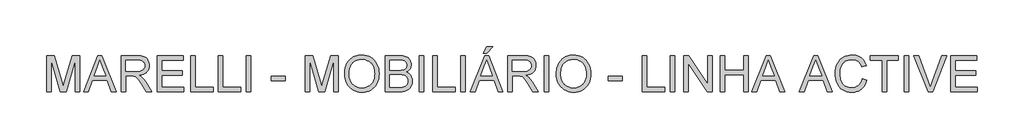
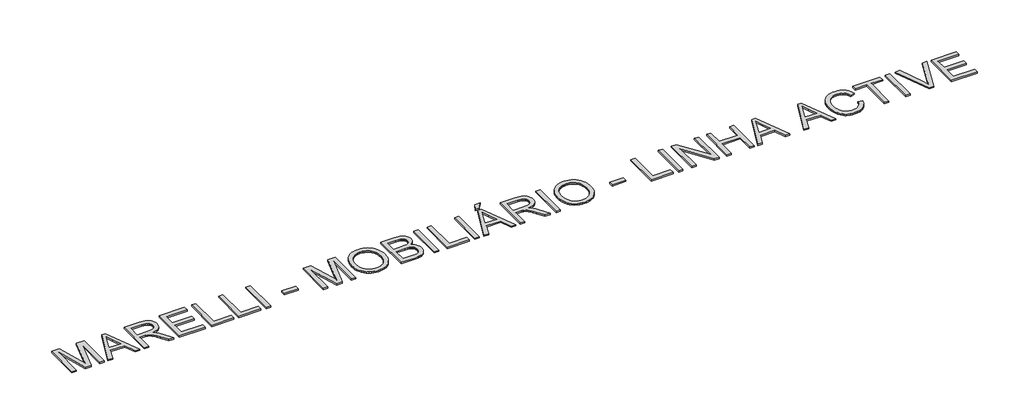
# One storey, part 19 of 19: 1 proxy.
"""IFC4 building model written with IfcOpenShell, lengths in millimetres."""

from ifc_helpers import new_model, si_unit, origin, origin_with_axes, place, context, project, spatial, polyline, outline, extrude, element, save

model = new_model("IFC4")

# Units and contexts
model_context = context("Model", 3, world=origin())
ifc_project = project(units=[si_unit("LENGTHUNIT", "METRE", prefix="MILLI")], contexts=[model_context])

# Site, building, storey
site = spatial("IfcSite", under=ifc_project)
building = spatial("IfcBuilding", under=site)
storey = spatial("IfcBuildingStorey", under=building, Name="Marelli - Linha ACTIVE - Planta Baixa", Elevation=0.0)

# Proxy
placement = place(None, origin())
element("IfcBuildingElementProxy", 1, Name="1200mm Arial", ObjectType="1200mm Arial", at=placement, inside=storey, context=model_context, shape_type="SweptSolid", body=[
    extrude(outline(polyline([(7890.8310756, 28269.4336799), (7890.8310756, 29474.9094017), (8150.1143058, 29474.9094017), (8396.7423953, 28625.2491457), (8446.4800411, 28447.7828712), (8500.3379652, 28639.9644255), (8742.8457764, 29474.9094017), (9002.1290066, 29474.9094017), (9002.1290066, 28269.4336799), (8851.4445414, 28269.4336799), (8851.4445414, 29324.2249365), (8548.6040829, 28269.4336799), (8344.3559992, 28269.4336799), (8041.5155408, 29324.2249365), (8041.5155408, 28269.4336799), (7890.8310756, 28269.4336799)])), origin_with_axes(), (0.0, 0.0, 1.0), 50.0),
    extrude(outline(polyline([(9125.4430514, 28269.4336799), (9606.6327011, 29474.9094017), (9734.949941, 29474.9094017), (10216.1395907, 28269.4336799), (10056.9202632, 28269.4336799), (9918.8909386, 28646.144843), (9422.3973979, 28646.144843), (9284.6623789, 28269.4336799), (9125.4430514, 28269.4336799)]), holes=[polyline([(9477.72685, 28796.8293082), (9863.8557921, 28796.8293082), (9755.2570271, 29093.1950435), (9670.791321, 29324.2249365), (9595.743394, 29119.093936), (9477.72685, 28796.8293082)])]), origin_with_axes(), (0.0, 0.0, 1.0), 50.0),
    extrude(outline(polyline([(10377.1247518, 28269.4336799), (10377.1247518, 29474.9094017), (10896.574129, 29474.9094017), (10971.1346123, 29472.8768537), (11036.1853461, 29466.7792096), (11091.7263303, 29456.6164695), (11137.757565, 29442.3886334), (11176.9553916, 29423.0012522), (11211.9961516, 29397.3598771), (11242.8798451, 29365.4645082), (11269.6064721, 29327.3151453), (11291.173554, 29284.9627306), (11306.5786126, 29240.4582062), (11315.8216477, 29193.8015722), (11318.9026594, 29144.9928285), (11313.7982967, 29083.0782887), (11298.4852087, 29026.2405204), (11272.9633953, 28974.4795237), (11237.2328565, 28927.7952985), (11215.424352, 28906.7294558), (11190.8337398, 28887.6777669), (11133.3061928, 28855.616851), (11064.6502155, 28831.6125509), (10984.8658078, 28815.6648664), (11034.5298771, 28783.2176744), (11070.5087363, 28751.2119408), (11132.2393351, 28678.0034238), (11192.6455587, 28596.1128916), (11393.6562808, 28269.4336799), (11218.5444511, 28269.4336799), (11061.6795684, 28519.2991311), (10998.9189, 28614.6541442), (10948.3719139, 28684.6988761), (10906.2494254, 28732.9282057), (10868.7622501, 28762.8370119), (10833.2616376, 28780.384983), (10797.0988375, 28791.5318075), (10761.8557423, 28795.504933), (10709.6900754, 28796.8293082), (10527.809217, 28796.8293082), (10527.809217, 28269.4336799), (10377.1247518, 28269.4336799)]), holes=[polyline([(10527.809217, 28947.5137734), (10865.0834302, 28947.5137734), (10961.9467595, 28952.8480624), (11002.239035, 28959.5159235), (11037.1050511, 28968.8509292), (11067.326557, 28981.1197937), (11093.685302, 28996.5892316), (11116.181286, 29015.2592429), (11134.814509, 29037.1298275), (11149.4286213, 29061.1249306), (11159.8672729, 29086.1684974), (11166.1304639, 29112.2605279), (11168.2181942, 29139.4010221), (11164.2358716, 29177.9366611), (11152.2889038, 29212.9038448), (11132.3772908, 29244.3025731), (11104.5010326, 29272.132846), (11068.0163358, 29294.9231356), (11022.2794067, 29311.2019139), (10967.2902455, 29320.9691808), (10903.0488521, 29324.2249365), (10527.809217, 29324.2249365), (10527.809217, 28947.5137734)])]), origin_with_axes(), (0.0, 0.0, 1.0), 50.0),
    extrude(outline(polyline([(11582.6004736, 28269.4336799), (11582.6004736, 29474.9094017), (12449.0361486, 29474.9094017), (12449.0361486, 29324.2249365), (11733.2849388, 29324.2249365), (11733.2849388, 28966.3493316), (12411.3650323, 28966.3493316), (12411.3650323, 28815.6648664), (11733.2849388, 28815.6648664), (11733.2849388, 28420.1181452), (12467.8717067, 28420.1181452), (12467.8717067, 28269.4336799), (11582.6004736, 28269.4336799)])), origin_with_axes(), (0.0, 0.0, 1.0), 50.0),
    extrude(outline(polyline([(12693.8984046, 28269.4336799), (12693.8984046, 29474.9094017), (12844.5828698, 29474.9094017), (12844.5828698, 28420.1181452), (13447.3207307, 28420.1181452), (13447.3207307, 28269.4336799), (12693.8984046, 28269.4336799)])), origin_with_axes(), (0.0, 0.0, 1.0), 50.0),
    extrude(outline(polyline([(13616.8407541, 28269.4336799), (13616.8407541, 29474.9094017), (13767.5252193, 29474.9094017), (13767.5252193, 28420.1181452), (14370.2630802, 28420.1181452), (14370.2630802, 28269.4336799), (13616.8407541, 28269.4336799)])), origin_with_axes(), (0.0, 0.0, 1.0), 50.0),
    extrude(outline(polyline([(14558.6186617, 28269.4336799), (14558.6186617, 29474.9094017), (14709.303127, 29474.9094017), (14709.303127, 28269.4336799), (14558.6186617, 28269.4336799)])), origin_with_axes(), (0.0, 0.0, 1.0), 50.0),
    extrude(outline(polyline([(15387.3832205, 28627.3092848), (15387.3832205, 28777.9937501), (15858.2721743, 28777.9937501), (15858.2721743, 28627.3092848), (15387.3832205, 28627.3092848)])), origin_with_axes(), (0.0, 0.0, 1.0), 50.0),
    extrude(outline(polyline([(16517.5167097, 28269.4336799), (16517.5167097, 29474.9094017), (16776.7999399, 29474.9094017), (17023.4280294, 28625.2491457), (17073.1656752, 28447.7828712), (17127.0235993, 28639.9644255), (17369.5314105, 29474.9094017), (17628.8146407, 29474.9094017), (17628.8146407, 28269.4336799), (17478.1301755, 28269.4336799), (17478.1301755, 29324.2249365), (17175.289717, 28269.4336799), (16971.0416333, 28269.4336799), (16668.2011749, 29324.2249365), (16668.2011749, 28269.4336799), (16517.5167097, 28269.4336799)])), origin_with_axes(), (0.0, 0.0, 1.0), 50.0),
    extrude(outline(polyline([(17836.0057804, 28856.2790386), (17838.516575, 28929.0047106), (17846.0489588, 28997.6744835), (17858.6029319, 29062.2883574), (17876.1784942, 29122.8463323), (17898.7756458, 29179.3484083), (17926.3943866, 29231.7945852), (17959.0347166, 29280.1848632), (17996.6966359, 29324.5192421), (18038.3270821, 29364.1815197), (18082.8729932, 29398.5554936), (18130.3343691, 29427.6411639), (18180.7112099, 29451.4385304), (18234.0035154, 29469.9475933), (18290.2112857, 29483.1683525), (18349.3345209, 29491.100808), (18411.3732208, 29493.7449599), (18492.4728067, 29488.7785529), (18569.4889024, 29473.8793321), (18642.4215079, 29449.0472975), (18711.2706233, 29414.2824489), (18774.1048681, 29370.6332502), (18828.9928618, 29319.148165), (18875.9346043, 29259.8271932), (18914.9300958, 29192.670335), (18945.574666, 29119.2043006), (18967.4636447, 29040.9558002), (18980.597032, 28957.9248339), (18984.9748277, 28870.1114017), (18980.3671057, 28781.1391411), (18966.5439397, 28696.9861347), (18943.5053298, 28617.6523825), (18911.2512759, 28543.1378843), (18870.5451331, 28475.410809), (18822.1502566, 28416.4393252), (18766.0666465, 28366.2234329), (18702.2943026, 28324.763132), (18633.3440197, 28292.31594), (18561.7265923, 28269.1393743), (18487.4420204, 28255.2334349), (18410.490304, 28250.5981218), (18327.9743725, 28255.7208786), (18249.9466013, 28271.0891489), (18176.4069905, 28296.7029328), (18107.35554, 28332.5622303), (18044.5948716, 28377.2782868), (17989.9276072, 28429.4623478), (17943.3537466, 28489.1144134), (17904.8732899, 28556.2344834), (17874.7437545, 28628.1278223), (17853.2226577, 28702.0996945), (17840.3099997, 28778.1500999), (17836.0057804, 28856.2790386)]), holes=[polyline([(17986.6902456, 28854.8075107), (17988.5733416, 28803.4557827), (17994.2226294, 28754.9091549), (18003.6381093, 28709.1676273), (18016.819781, 28666.2311999), (18033.7676447, 28626.0998728), (18054.4817003, 28588.7736458), (18078.9619478, 28554.2525191), (18107.2083872, 28522.5364926), (18138.2967151, 28494.1176085), (18171.3026278, 28469.4879089), (18206.2261255, 28448.6473939), (18243.067208, 28431.5960634), (18281.8258755, 28418.3339175), (18322.5021278, 28408.8609561), (18365.0959651, 28403.1771793), (18409.6073872, 28401.282587), (18454.9327483, 28403.1955734), (18498.2025687, 28408.9345325), (18539.4168485, 28418.4994644), (18578.5755876, 28431.890369), (18615.6787861, 28449.1072464), (18650.7264439, 28470.1500965), (18683.7185611, 28495.0189194), (18714.6551376, 28523.713715), (18742.6946435, 28555.9263822), (18766.9955485, 28591.3488198), (18787.5578528, 28629.9810278), (18804.3815563, 28671.8230063), (18817.466659, 28716.8747551), (18826.8131609, 28765.1362743), (18832.4210621, 28816.607564), (18834.2903625, 28871.288624), (18831.0897891, 28940.248104), (18821.488069, 29004.6826355), (18805.4852023, 29064.5922184), (18783.0811888, 29119.9768528), (18754.5243489, 29170.1099717), (18720.063003, 29214.2650081), (18679.6971511, 29252.4419622), (18633.4267931, 29284.6408338), (18582.6866689, 29310.1994354), (18528.9115183, 29328.4555794), (18472.1013412, 29339.4092659), (18412.2561376, 29343.0604947), (18369.457666, 29341.3015589), (18328.1767076, 29336.0247515), (18288.4132625, 29327.2300726), (18250.1673305, 29314.917522), (18213.4389118, 29299.0870999), (18178.2280064, 29279.7388062), (18144.5346141, 29256.872641), (18112.3587351, 29230.4886041), (18082.9051829, 29199.993486), (18057.378771, 29164.7940768), (18035.7794993, 29124.8903767), (18018.107368, 29080.2823855), (18004.3623769, 29030.9701033), (17994.5445262, 28976.9535301), (17988.6538157, 28918.2326659), (17986.6902456, 28854.8075107)])]), origin_with_axes(), (0.0, 0.0, 1.0), 50.0),
    extrude(outline(polyline([(19192.1659674, 28269.4336799), (19192.1659674, 29474.9094017), (19652.1656142, 29474.9094017), (19718.890211, 29472.6929127), (19778.6802323, 29466.0434456), (19831.535678, 29454.9610005), (19877.456548, 29439.4455774), (19917.6108678, 29419.3316293), (19953.1666626, 29394.4536094), (19984.1239325, 29364.8115176), (20010.4826775, 29330.405354), (20031.5347246, 29293.1756961), (20046.5719012, 29255.0631214), (20055.5942071, 29216.0676299), (20058.6016424, 29176.1892216), (20056.0724537, 29139.3550369), (20048.4848876, 29103.606104), (20035.838944, 29068.942423), (20018.134623, 29035.3639939), (19995.3167422, 29003.9192804), (19967.3301194, 28975.6567461), (19934.1747546, 28950.5763911), (19895.8506478, 28928.6782153), (19941.3300594, 28909.2908341), (19981.2360588, 28884.0909175), (20015.568646, 28853.0784653), (20044.327821, 28816.2534776), (20067.0537313, 28774.7379944), (20083.2865243, 28729.6540559), (20093.0262001, 28681.001662), (20096.2727587, 28628.7808128), (20094.0562697, 28585.9869397), (20087.4068027, 28544.7197769), (20076.3243575, 28504.9793244), (20060.8089344, 28466.7655821), (20042.0193615, 28431.4673047), (20021.1144671, 28400.4732466), (19998.0942513, 28373.7834079), (19972.958714, 28351.3977885), (19945.119244, 28332.3966834), (19913.9872301, 28315.8603877), (19879.5626724, 28301.7889014), (19841.8455709, 28290.1822245), (19800.2473143, 28281.1047362), (19754.1792914, 28274.6208161), (19648.633947, 28269.4336799), (19192.1659674, 28269.4336799)]), holes=[polyline([(19342.8504326, 28985.1848897), (19618.026165, 28985.1848897), (19714.2640949, 28988.4222513), (19778.7170205, 28998.134336), (19808.8189648, 29007.9108), (19834.9661776, 29020.4647731), (19857.1586589, 29035.7962552), (19875.3964088, 29053.9052464), (19889.624245, 29074.662988), (19899.7869851, 29097.9407213), (19905.8846292, 29123.7384462), (19907.9171772, 29152.0561628), (19906.0225849, 29179.1690658), (19900.3388081, 29204.5897117), (19890.8658467, 29228.3181004), (19877.6037008, 29250.3542319), (19860.8098877, 29269.8795688), (19840.7419249, 29286.0755736), (19817.3998123, 29298.9422464), (19790.7835499, 29308.4795871), (19757.4902294, 29315.3681775), (19714.1169421, 29320.2885992), (19597.1304677, 29324.2249365), (19342.8504326, 29324.2249365), (19342.8504326, 28985.1848897)]), polyline([(19342.8504326, 28420.1181452), (19651.8713086, 28420.1181452), (19719.5615957, 28421.5896731), (19763.7074351, 28426.0042571), (19815.6155846, 28439.0640679), (19858.3266843, 28458.819331), (19893.0547446, 28487.1094565), (19921.0137762, 28525.7738542), (19931.7651275, 28548.5641438), (19939.4446642, 28573.0834788), (19944.0523862, 28599.3318591), (19945.5882935, 28627.3092848), (19943.7856717, 28659.9036296), (19938.3778064, 28690.2906824), (19929.3646975, 28718.4704432), (19916.7463451, 28744.4429121), (19900.0904878, 28767.463128), (19878.9648642, 28786.7861297), (19853.3694744, 28802.4119175), (19823.3043183, 28814.3404912), (19787.4450208, 28823.160462), (19744.4672067, 28829.4604412), (19637.1560288, 28834.5004245), (19342.8504326, 28834.5004245), (19342.8504326, 28420.1181452)])]), origin_with_axes(), (0.0, 0.0, 1.0), 50.0),
    extrude(outline(polyline([(20322.2994566, 28269.4336799), (20322.2994566, 29474.9094017), (20472.9839218, 29474.9094017), (20472.9839218, 28269.4336799), (20322.2994566, 28269.4336799)])), origin_with_axes(), (0.0, 0.0, 1.0), 50.0),
    extrude(outline(polyline([(20774.3528522, 28269.4336799), (20774.3528522, 29474.9094017), (20925.0373175, 29474.9094017), (20925.0373175, 28420.1181452), (21527.7751784, 28420.1181452), (21527.7751784, 28269.4336799), (20774.3528522, 28269.4336799)])), origin_with_axes(), (0.0, 0.0, 1.0), 50.0),
    extrude(outline(polyline([(21716.1307599, 28269.4336799), (21716.1307599, 29474.9094017), (21866.8152251, 29474.9094017), (21866.8152251, 28269.4336799), (21716.1307599, 28269.4336799)])), origin_with_axes(), (0.0, 0.0, 1.0), 50.0),
    extrude(outline(polyline([(22027.8003862, 28269.4336799), (22508.9900359, 29474.9094017), (22637.3072758, 29474.9094017), (23118.4969255, 28269.4336799), (22959.277598, 28269.4336799), (22821.2482734, 28646.144843), (22324.7547327, 28646.144843), (22187.0197137, 28269.4336799), (22027.8003862, 28269.4336799)]), holes=[polyline([(22380.0841848, 28796.8293082), (22766.2131269, 28796.8293082), (22657.614362, 29093.1950435), (22573.1486559, 29324.2249365), (22498.1007288, 29119.093936), (22380.0841848, 28796.8293082)])]), origin_with_axes(), (0.0, 0.0, 1.0), 50.0),
    extrude(outline(polyline([(22469.553086, 29550.2516343), (22582.5664349, 29776.2783322), (22770.9220165, 29776.2783322), (22582.5664349, 29550.2516343), (22469.553086, 29550.2516343)])), origin_with_axes(), (0.0, 0.0, 1.0), 50.0),
    extrude(outline(polyline([(23279.4820866, 28269.4336799), (23279.4820866, 29474.9094017), (23798.9314638, 29474.9094017), (23873.4919472, 29472.8768537), (23938.542681, 29466.7792096), (23994.0836652, 29456.6164695), (24040.1148998, 29442.3886334), (24079.3127264, 29423.0012522), (24114.3534865, 29397.3598771), (24145.23718, 29365.4645082), (24171.9638069, 29327.3151453), (24193.5308889, 29284.9627306), (24208.9359474, 29240.4582062), (24218.1789825, 29193.8015722), (24221.2599943, 29144.9928285), (24216.1556316, 29083.0782887), (24200.8425435, 29026.2405204), (24175.3207301, 28974.4795237), (24139.5901913, 28927.7952985), (24117.7816868, 28906.7294558), (24093.1910747, 28887.6777669), (24035.6635277, 28855.616851), (23967.0075503, 28831.6125509), (23887.2231426, 28815.6648664), (23936.887212, 28783.2176744), (23972.8660711, 28751.2119408), (24034.5966699, 28678.0034238), (24095.0028935, 28596.1128916), (24296.0136157, 28269.4336799), (24120.901786, 28269.4336799), (23964.0369032, 28519.2991311), (23901.2762348, 28614.6541442), (23850.7292487, 28684.6988761), (23808.6067603, 28732.9282057), (23771.119585, 28762.8370119), (23735.6189724, 28780.384983), (23699.4561723, 28791.5318075), (23664.2130772, 28795.504933), (23612.0474102, 28796.8293082), (23430.1665518, 28796.8293082), (23430.1665518, 28269.4336799), (23279.4820866, 28269.4336799)]), holes=[polyline([(23430.1665518, 28947.5137734), (23767.440765, 28947.5137734), (23864.3040943, 28952.8480624), (23904.5963699, 28959.5159235), (23939.4623859, 28968.8509292), (23969.6838919, 28981.1197937), (23996.0426368, 28996.5892316), (24018.5386208, 29015.2592429), (24037.1718439, 29037.1298275), (24051.7859561, 29061.1249306), (24062.2246077, 29086.1684974), (24068.4877987, 29112.2605279), (24070.575529, 29139.4010221), (24066.5932064, 29177.9366611), (24054.6462386, 29212.9038448), (24034.7346256, 29244.3025731), (24006.8583675, 29272.132846), (23970.3736706, 29294.9231356), (23924.6367415, 29311.2019139), (23869.6475803, 29320.9691808), (23805.4061869, 29324.2249365), (23430.1665518, 29324.2249365), (23430.1665518, 28947.5137734)])]), origin_with_axes(), (0.0, 0.0, 1.0), 50.0),
    extrude(outline(polyline([(24503.7933665, 28269.4336799), (24503.7933665, 29474.9094017), (24654.4778318, 29474.9094017), (24654.4778318, 28269.4336799), (24503.7933665, 28269.4336799)])), origin_with_axes(), (0.0, 0.0, 1.0), 50.0),
    extrude(outline(polyline([(24899.3400878, 28856.2790386), (24901.8508824, 28929.0047106), (24909.3832662, 28997.6744835), (24921.9372393, 29062.2883574), (24939.5128016, 29122.8463323), (24962.1099532, 29179.3484083), (24989.728694, 29231.7945852), (25022.369024, 29280.1848632), (25060.0309433, 29324.5192421), (25101.6613895, 29364.1815197), (25146.2073006, 29398.5554936), (25193.6686765, 29427.6411639), (25244.0455172, 29451.4385304), (25297.3378228, 29469.9475933), (25353.5455931, 29483.1683525), (25412.6688283, 29491.100808), (25474.7075282, 29493.7449599), (25555.8071141, 29488.7785529), (25632.8232097, 29473.8793321), (25705.7558153, 29449.0472975), (25774.6049307, 29414.2824489), (25837.4391755, 29370.6332502), (25892.3271691, 29319.148165), (25939.2689117, 29259.8271932), (25978.2644032, 29192.670335), (26008.9089734, 29119.2043006), (26030.7979521, 29040.9558002), (26043.9313394, 28957.9248339), (26048.3091351, 28870.1114017), (26043.7014131, 28781.1391411), (26029.8782471, 28696.9861347), (26006.8396372, 28617.6523825), (25974.5855833, 28543.1378843), (25933.8794405, 28475.410809), (25885.484564, 28416.4393252), (25829.4009539, 28366.2234329), (25765.62861, 28324.763132), (25696.6783271, 28292.31594), (25625.0608996, 28269.1393743), (25550.7763278, 28255.2334349), (25473.8246114, 28250.5981218), (25391.3086799, 28255.7208786), (25313.2809087, 28271.0891489), (25239.7412979, 28296.7029328), (25170.6898474, 28332.5622303), (25107.929179, 28377.2782868), (25053.2619145, 28429.4623478), (25006.688054, 28489.1144134), (24968.2075973, 28556.2344834), (24938.0780619, 28628.1278223), (24916.5569651, 28702.0996945), (24903.6443071, 28778.1500999), (24899.3400878, 28856.2790386)]), holes=[polyline([(25050.024553, 28854.8075107), (25051.907649, 28803.4557827), (25057.5569368, 28754.9091549), (25066.9724167, 28709.1676273), (25080.1540884, 28666.2311999), (25097.1019521, 28626.0998728), (25117.8160076, 28588.7736458), (25142.2962552, 28554.2525191), (25170.5426946, 28522.5364926), (25201.6310225, 28494.1176085), (25234.6369352, 28469.4879089), (25269.5604329, 28448.6473939), (25306.4015154, 28431.5960634), (25345.1601829, 28418.3339175), (25385.8364352, 28408.8609561), (25428.4302725, 28403.1771793), (25472.9416946, 28401.282587), (25518.2670557, 28403.1955734), (25561.5368761, 28408.9345325), (25602.7511559, 28418.4994644), (25641.909895, 28431.890369), (25679.0130935, 28449.1072464), (25714.0607513, 28470.1500965), (25747.0528685, 28495.0189194), (25777.989445, 28523.713715), (25806.0289509, 28555.9263822), (25830.3298559, 28591.3488198), (25850.8921602, 28629.9810278), (25867.7158637, 28671.8230063), (25880.8009664, 28716.8747551), (25890.1474683, 28765.1362743), (25895.7553695, 28816.607564), (25897.6246699, 28871.288624), (25894.4240965, 28940.248104), (25884.8223764, 29004.6826355), (25868.8195097, 29064.5922184), (25846.4154961, 29119.9768528), (25817.8586563, 29170.1099717), (25783.3973104, 29214.2650081), (25743.0314585, 29252.4419622), (25696.7611005, 29284.6408338), (25646.0209763, 29310.1994354), (25592.2458257, 29328.4555794), (25535.4356486, 29339.4092659), (25475.590445, 29343.0604947), (25432.7919734, 29341.3015589), (25391.511015, 29336.0247515), (25351.7475699, 29327.2300726), (25313.5016379, 29314.917522), (25276.7732192, 29299.0870999), (25241.5623138, 29279.7388062), (25207.8689215, 29256.872641), (25175.6930425, 29230.4886041), (25146.2394903, 29199.993486), (25120.7130784, 29164.7940768), (25099.1138067, 29124.8903767), (25081.4416754, 29080.2823855), (25067.6966843, 29030.9701033), (25057.8788336, 28976.9535301), (25051.9881231, 28918.2326659), (25050.024553, 28854.8075107)])]), origin_with_axes(), (0.0, 0.0, 1.0), 50.0),
    extrude(outline(polyline([(26632.2114378, 28627.3092848), (26632.2114378, 28777.9937501), (27103.1003917, 28777.9937501), (27103.1003917, 28627.3092848), (26632.2114378, 28627.3092848)])), origin_with_axes(), (0.0, 0.0, 1.0), 50.0),
    extrude(outline(polyline([(27762.344927, 28269.4336799), (27762.344927, 29474.9094017), (27913.0293923, 29474.9094017), (27913.0293923, 28420.1181452), (28515.7672531, 28420.1181452), (28515.7672531, 28269.4336799), (27762.344927, 28269.4336799)])), origin_with_axes(), (0.0, 0.0, 1.0), 50.0),
    extrude(outline(polyline([(28704.1228347, 28269.4336799), (28704.1228347, 29474.9094017), (28854.8072999, 29474.9094017), (28854.8072999, 28269.4336799), (28704.1228347, 28269.4336799)])), origin_with_axes(), (0.0, 0.0, 1.0), 50.0),
    extrude(outline(polyline([(29156.1762304, 28269.4336799), (29156.1762304, 29474.9094017), (29317.455697, 29474.9094017), (29947.2696728, 28519.8877422), (29947.2696728, 29474.9094017), (30097.954138, 29474.9094017), (30097.954138, 28269.4336799), (29936.6746713, 28269.4336799), (29306.8606956, 29224.749645), (29306.8606956, 28269.4336799), (29156.1762304, 28269.4336799)])), origin_with_axes(), (0.0, 0.0, 1.0), 50.0),
    extrude(outline(polyline([(30361.6519521, 28269.4336799), (30361.6519521, 29474.9094017), (30512.3364174, 29474.9094017), (30512.3364174, 28985.1848897), (31152.7453946, 28985.1848897), (31152.7453946, 29474.9094017), (31303.4298598, 29474.9094017), (31303.4298598, 28269.4336799), (31152.7453946, 28269.4336799), (31152.7453946, 28834.5004245), (30512.3364174, 28834.5004245), (30512.3364174, 28269.4336799), (30361.6519521, 28269.4336799)])), origin_with_axes(), (0.0, 0.0, 1.0), 50.0),
    extrude(outline(polyline([(31426.7439046, 28269.4336799), (31907.9335543, 29474.9094017), (32036.2507942, 29474.9094017), (32517.4404439, 28269.4336799), (32358.2211164, 28269.4336799), (32220.1917918, 28646.144843), (31723.6982511, 28646.144843), (31585.9632321, 28269.4336799), (31426.7439046, 28269.4336799)]), holes=[polyline([(31779.0277032, 28796.8293082), (32165.1566453, 28796.8293082), (32056.5578803, 29093.1950435), (31972.0921742, 29324.2249365), (31897.0442472, 29119.093936), (31779.0277032, 28796.8293082)])]), origin_with_axes(), (0.0, 0.0, 1.0), 50.0),
    extrude(outline(polyline([(33008.9307894, 28269.4336799), (33490.1204391, 29474.9094017), (33618.4376791, 29474.9094017), (34099.6273287, 28269.4336799), (33940.4080012, 28269.4336799), (33802.3786766, 28646.144843), (33305.8851359, 28646.144843), (33168.150117, 28269.4336799), (33008.9307894, 28269.4336799)]), holes=[polyline([(33361.214588, 28796.8293082), (33747.3435302, 28796.8293082), (33638.7447652, 29093.1950435), (33554.2790591, 29324.2249365), (33479.2311321, 29119.093936), (33361.214588, 28796.8293082)])]), origin_with_axes(), (0.0, 0.0, 1.0), 50.0),
    extrude(outline(polyline([(35108.2126067, 28697.9426279), (35258.8970719, 28659.0942892), (35245.2256573, 28610.7614928), (35229.0802362, 28565.385548), (35210.4608088, 28522.9664547), (35189.3673749, 28483.5042129), (35165.7999345, 28446.9988227), (35139.7584878, 28413.450284), (35111.2430347, 28382.8585968), (35080.2535751, 28355.2237612), (35047.1258014, 28330.702127), (35012.195406, 28309.450044), (34975.4623888, 28291.4675122), (34936.9267498, 28276.7545316), (34896.588489, 28265.3111023), (34854.4476064, 28257.1372242), (34810.5041021, 28252.2328974), (34764.757976, 28250.5981218), (34672.8702507, 28255.5461346), (34589.9772401, 28270.3901731), (34516.0789443, 28295.1302373), (34482.5028145, 28311.211279), (34451.1753633, 28329.7663271), (34394.3743833, 28373.7834079), (34344.7838903, 28426.6664447), (34302.4038845, 28488.4154376), (34267.2343657, 28559.0303865), (34239.615625, 28635.457871), (34219.887953, 28714.6444705), (34208.0513498, 28796.5901849), (34204.1058154, 28881.2950143), (34208.5663846, 28972.1802612), (34221.9480921, 29057.0690316), (34244.2509381, 29135.9613255), (34275.4749224, 29208.8571428), (34314.9210694, 29274.5516701), (34361.8904031, 29331.8400938), (34416.3829236, 29380.7224139), (34478.398631, 29421.1986304), (34545.8314007, 29452.9376496), (34616.5751084, 29475.6083775), (34690.629754, 29489.2108143), (34767.9953376, 29493.7449599), (34854.180892, 29487.8772421), (34894.5904299, 29480.5425948), (34933.2111416, 29470.2740886), (34970.0430271, 29457.0717235), (35005.0860864, 29440.9354995), (35038.3403195, 29421.8654165), (35069.8057264, 29399.8614747), (35099.2155927, 29375.1949869), (35126.3032038, 29348.1372662), (35151.0685599, 29318.6883125), (35173.5116609, 29286.8481258), (35193.6325067, 29252.6167061), (35211.4310975, 29215.9940535), (35240.0615138, 29135.5750494), (35089.3770486, 29099.6697666), (35065.6486599, 29158.926359), (35037.1378052, 29209.5561186), (35003.8444847, 29251.5590454), (34965.7686982, 29284.9351394), (34922.6897166, 29310.3649823), (34874.3868106, 29328.5291558), (34820.8599803, 29339.42766), (34762.1092257, 29343.0604947), (34694.510909, 29339.0321868), (34632.6883398, 29326.9472633), (34576.6415178, 29306.805724), (34526.3704431, 29278.6075691), (34482.5097123, 29243.6219914), (34445.6939216, 29203.1181837), (34415.9230711, 29157.0961461), (34393.1971609, 29105.5558786), (34376.3941508, 29050.8334318), (34364.3920007, 28995.2648564), (34357.1907106, 28938.8501525), (34354.7902806, 28881.5893199), (34357.632169, 28809.6316016), (34366.1578342, 28742.3827729), (34380.3672763, 28679.8428338), (34400.2604952, 28622.0117841), (34426.1593877, 28570.0392552), (34458.3858504, 28525.0748784), (34496.9398835, 28487.1186535), (34541.8214869, 28456.1705807), (34590.8509599, 28432.1570834), (34641.8486014, 28415.0045854), (34694.8144117, 28404.7130866), (34749.7483906, 28401.282587), (34815.2589769, 28405.9546883), (34875.5272448, 28419.9709924), (34930.5531942, 28443.3314991), (34980.3368252, 28476.0362084), (35023.7009154, 28517.9379677), (35059.4682424, 28568.889624), (35087.6388061, 28628.8911774), (35108.2126067, 28697.9426279)])), origin_with_axes(), (0.0, 0.0, 1.0), 50.0),
    extrude(outline(polyline([(35767.4571421, 28269.4336799), (35767.4571421, 29324.2249365), (35371.9104209, 29324.2249365), (35371.9104209, 29474.9094017), (36313.6883285, 29474.9094017), (36313.6883285, 29324.2249365), (35918.1416073, 29324.2249365), (35918.1416073, 28269.4336799), (35767.4571421, 28269.4336799)])), origin_with_axes(), (0.0, 0.0, 1.0), 50.0),
    extrude(outline(polyline([(36502.04391, 28269.4336799), (36502.04391, 29474.9094017), (36652.7283753, 29474.9094017), (36652.7283753, 28269.4336799), (36502.04391, 28269.4336799)])), origin_with_axes(), (0.0, 0.0, 1.0), 50.0),
    extrude(outline(polyline([(37310.207077, 28269.4336799), (36830.4889553, 29474.9094017), (36991.768422, 29474.9094017), (37312.8558274, 28606.4135875), (37348.5403809, 28505.2460388), (37377.8973642, 28410.7003661), (37407.7693822, 28508.6305532), (37442.0559841, 28606.4135875), (37764.0263063, 29474.9094017), (37925.305773, 29474.9094017), (37465.8947374, 28269.4336799), (37310.207077, 28269.4336799)])), origin_with_axes(), (0.0, 0.0, 1.0), 50.0),
    extrude(outline(polyline([(38065.3952367, 28269.4336799), (38065.3952367, 29474.9094017), (38931.8309118, 29474.9094017), (38931.8309118, 29324.2249365), (38216.079702, 29324.2249365), (38216.079702, 28966.3493316), (38894.1597955, 28966.3493316), (38894.1597955, 28815.6648664), (38216.079702, 28815.6648664), (38216.079702, 28420.1181452), (38950.6664699, 28420.1181452), (38950.6664699, 28269.4336799), (38065.3952367, 28269.4336799)])), origin_with_axes(), (0.0, 0.0, 1.0), 50.0),
])

save(model, "model.ifc")
